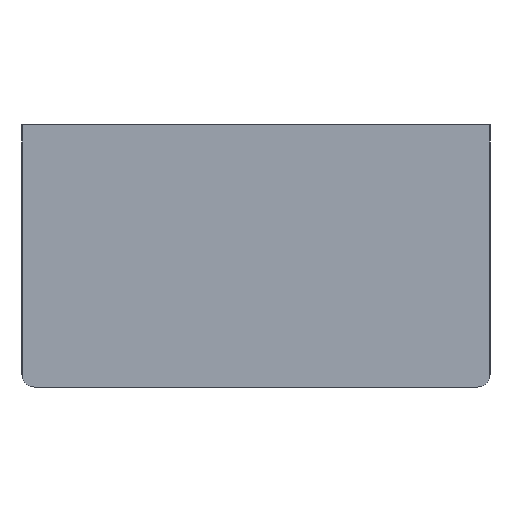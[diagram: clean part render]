
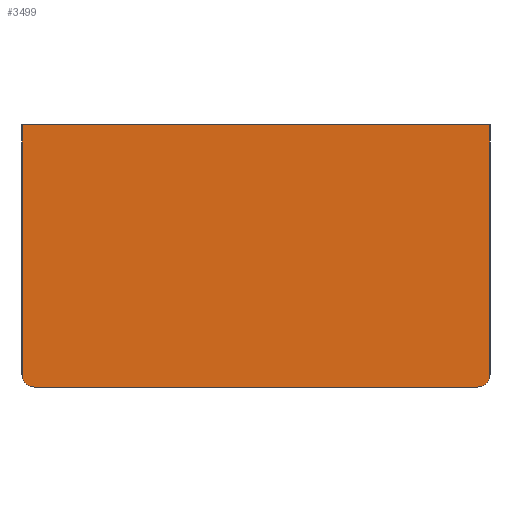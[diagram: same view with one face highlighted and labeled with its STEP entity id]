
A CAD part, left-side view. The second image highlights one B-rep face of the part: STEP entity #3499.
In plain terms, the highlighted planar face has unit normal (-1, 0, 0).
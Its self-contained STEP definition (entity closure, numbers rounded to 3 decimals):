
#80 = AXIS2_PLACEMENT_3D ( 'NONE', #1634, #3152, #1981 ) ;
#123 = ORIENTED_EDGE ( 'NONE', *, *, #2035, .F. ) ;
#271 = ORIENTED_EDGE ( 'NONE', *, *, #3335, .T. ) ;
#287 = CARTESIAN_POINT ( 'NONE',  ( -175., -37.5, 115.042 ) ) ;
#379 = VECTOR ( 'NONE', #404, 1000. ) ;
#404 = DIRECTION ( 'NONE',  ( 0., 1., 0. ) ) ;
#438 = VECTOR ( 'NONE', #497, 1000. ) ;
#497 = DIRECTION ( 'NONE',  ( 0., 0., -1. ) ) ;
#524 = PLANE ( 'NONE',  #1696 ) ;
#561 = EDGE_CURVE ( 'NONE', #2907, #1583, #3203, .T. ) ;
#645 = VERTEX_POINT ( 'NONE', #824 ) ;
#824 = CARTESIAN_POINT ( 'NONE',  ( -175., -37.5, 0. ) ) ;
#832 = CARTESIAN_POINT ( 'NONE',  ( -175., 37.5, 115.042 ) ) ;
#858 = LINE ( 'NONE', #287, #438 ) ;
#983 = ORIENTED_EDGE ( 'NONE', *, *, #1184, .F. ) ;
#1084 = ORIENTED_EDGE ( 'NONE', *, *, #1205, .T. ) ;
#1115 = VECTOR ( 'NONE', #1390, 1000. ) ;
#1184 = EDGE_CURVE ( 'NONE', #2239, #645, #858, .T. ) ;
#1201 = FACE_OUTER_BOUND ( 'NONE', #2618, .T. ) ;
#1205 = EDGE_CURVE ( 'NONE', #2239, #3316, #2216, .T. ) ;
#1257 = ORIENTED_EDGE ( 'NONE', *, *, #2817, .T. ) ;
#1377 = CARTESIAN_POINT ( 'NONE',  ( -175., 37.5, 115.042 ) ) ;
#1390 = DIRECTION ( 'NONE',  ( 0., 0., -1. ) ) ;
#1427 = DIRECTION ( 'NONE',  ( -1., 0., 0. ) ) ;
#1535 = LINE ( 'NONE', #1377, #1115 ) ;
#1558 = CARTESIAN_POINT ( 'NONE',  ( -175., 37.5, -2. ) ) ;
#1583 = VERTEX_POINT ( 'NONE', #2310 ) ;
#1634 = CARTESIAN_POINT ( 'NONE',  ( -175., -35.5, 0. ) ) ;
#1662 = CARTESIAN_POINT ( 'NONE',  ( -175., 37.5, 40. ) ) ;
#1696 = AXIS2_PLACEMENT_3D ( 'NONE', #832, #2902, #2660 ) ;
#1981 = DIRECTION ( 'NONE',  ( 0., 0., 1. ) ) ;
#2035 = EDGE_CURVE ( 'NONE', #2870, #1583, #3519, .T. ) ;
#2163 = VECTOR ( 'NONE', #2953, 1000. ) ;
#2216 = LINE ( 'NONE', #3544, #2163 ) ;
#2239 = VERTEX_POINT ( 'NONE', #3714 ) ;
#2310 = CARTESIAN_POINT ( 'NONE',  ( -175., 35.5, -2. ) ) ;
#2581 = DIRECTION ( 'NONE',  ( 0., 0., 1. ) ) ;
#2618 = EDGE_LOOP ( 'NONE', ( #123, #271, #983, #1084, #1257, #3474 ) ) ;
#2660 = DIRECTION ( 'NONE',  ( 0., 0., 1. ) ) ;
#2740 = CIRCLE ( 'NONE', #80, 2. ) ;
#2817 = EDGE_CURVE ( 'NONE', #3316, #2907, #1535, .T. ) ;
#2868 = CARTESIAN_POINT ( 'NONE',  ( -175., 35.5, 0. ) ) ;
#2870 = VERTEX_POINT ( 'NONE', #3778 ) ;
#2902 = DIRECTION ( 'NONE',  ( -1., 0., 0. ) ) ;
#2907 = VERTEX_POINT ( 'NONE', #3741 ) ;
#2953 = DIRECTION ( 'NONE',  ( 0., 1., 0. ) ) ;
#3152 = DIRECTION ( 'NONE',  ( -1., 0., 0. ) ) ;
#3203 = CIRCLE ( 'NONE', #3710, 2. ) ;
#3316 = VERTEX_POINT ( 'NONE', #1662 ) ;
#3335 = EDGE_CURVE ( 'NONE', #2870, #645, #2740, .T. ) ;
#3474 = ORIENTED_EDGE ( 'NONE', *, *, #561, .T. ) ;
#3499 = ADVANCED_FACE ( 'NONE', ( #1201 ), #524, .T. ) ;
#3519 = LINE ( 'NONE', #1558, #379 ) ;
#3544 = CARTESIAN_POINT ( 'NONE',  ( -175., 37.5, 40. ) ) ;
#3710 = AXIS2_PLACEMENT_3D ( 'NONE', #2868, #1427, #2581 ) ;
#3714 = CARTESIAN_POINT ( 'NONE',  ( -175., -37.5, 40. ) ) ;
#3741 = CARTESIAN_POINT ( 'NONE',  ( -175., 37.5, 0. ) ) ;
#3778 = CARTESIAN_POINT ( 'NONE',  ( -175., -35.5, -2. ) ) ;
